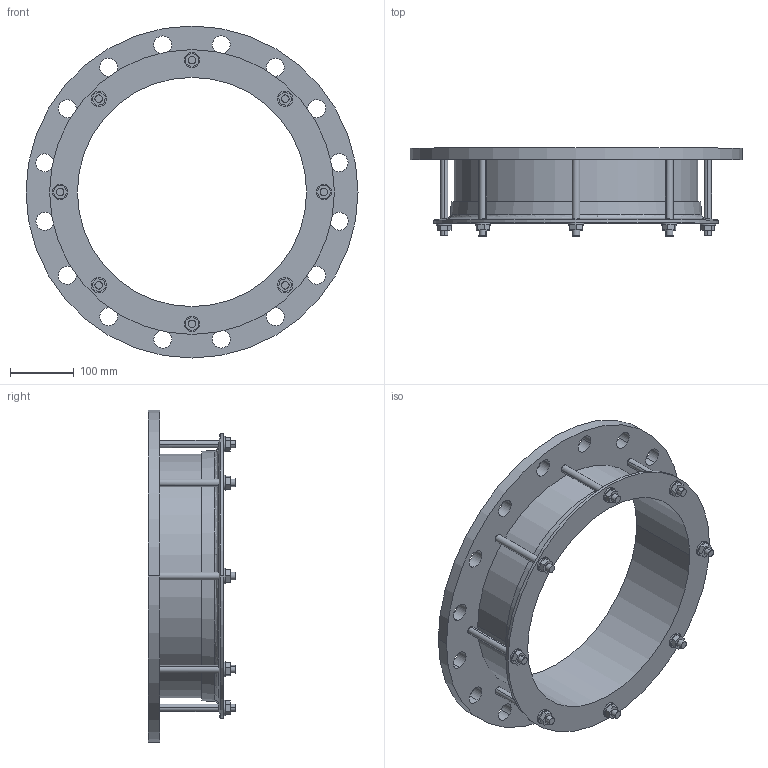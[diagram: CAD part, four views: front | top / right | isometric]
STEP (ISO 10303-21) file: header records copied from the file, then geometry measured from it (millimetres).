
FILE_DESCRIPTION((''),'2;1');
FILE_NAME('355X350PN16','2019-01-16T',('mfairey'),('Glynwed Pipe Systems'),'CREO PARAMETRIC BY PTC INC, 2016130','CREO PARAMETRIC BY PTC INC, 2016130','');
FILE_SCHEMA(('CONFIG_CONTROL_DESIGN'));
Length unit declared in the file: millimetre
Products named in the file (1): 355X350PN16
Bounding box: 520 x 137.45 x 520 mm (x, y, z)
Volume: 3687985.9 mm3; surface area: 622502.5 mm2
Topology: 1 solids, 1 shells, 170 faces, 446 edges, 296 vertices
Faces by surface type: cylinder 88, plane 76, cone 4, torus 2
Entity records: 5830 total; most frequent: CARTESIAN_POINT 1384, DIRECTION 924, ORIENTED_EDGE 892, EDGE_CURVE 446, AXIS2_PLACEMENT_3D 344, VERTEX_POINT 296, EDGE_LOOP 238, VECTOR 236
